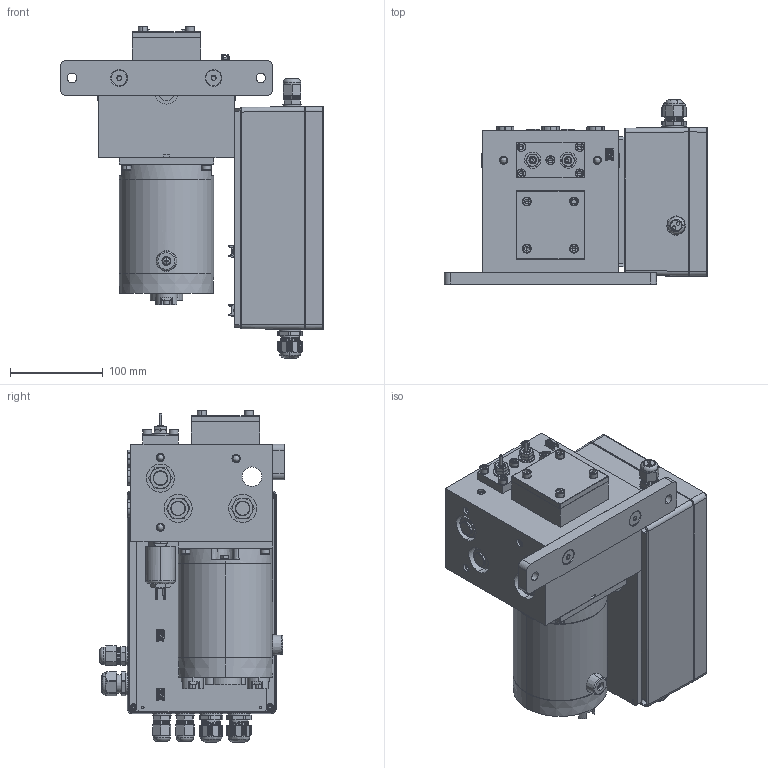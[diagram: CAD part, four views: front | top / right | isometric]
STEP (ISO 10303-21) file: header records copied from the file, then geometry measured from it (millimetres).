
FILE_DESCRIPTION (( 'STEP AP214' ), '1' );
FILE_NAME ('PA35.STEP', '2018-10-12T17:08:07', ( '' ), ( '' ), 'SwSTEP 2.0', 'SolidWorks 2017', '' );
FILE_SCHEMA (( 'AUTOMOTIVE_DESIGN' ));
Length unit declared in the file: inch
Products named in the file (1): PA35
Bounding box: 283.68 x 198.77 x 357.33 mm (x, y, z)
Surface area: 460612.7 mm2 (no closed solid volume)
Topology: 0 solids, 181 shells, 1923 faces, 7359 edges, 5462 vertices
Faces by surface type: plane 999, cylinder 551, cone 232, bspline 101, torus 40
Entity records: 118410 total; most frequent: CARTESIAN_POINT 35729, DIRECTION 11231, ORIENTED_EDGE 10745, EDGE_CURVE 7331, VERTEX_POINT 5462, AXIS2_PLACEMENT_3D 3812, VECTOR 3607, LINE 3607
